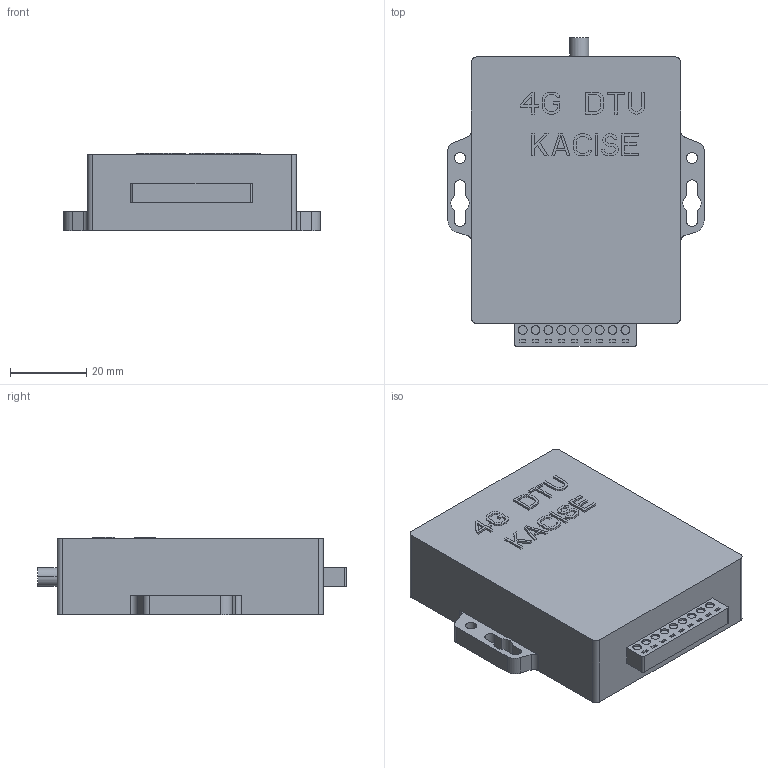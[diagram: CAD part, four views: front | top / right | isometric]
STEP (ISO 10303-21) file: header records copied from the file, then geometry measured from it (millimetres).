
FILE_DESCRIPTION((''),'2;1');
FILE_NAME('PRT0085','2025-12-31T10:33:38',('28740194'),(''),'CREO PARAMETRIC BY PTC INC, 2024063','CREO PARAMETRIC BY PTC INC, 2024063','');
FILE_SCHEMA(('CONFIG_CONTROL_DESIGN'));
Length unit declared in the file: millimetre
Products named in the file (1): PRT0085
Bounding box: 67.36 x 81.24 x 20.5 mm (x, y, z)
Volume: 79111.1 mm3; surface area: 14547.7 mm2
Topology: 2 solids, 2 shells, 395 faces, 1071 edges, 714 vertices
Faces by surface type: plane 349, cylinder 46
Entity records: 12315 total; most frequent: CARTESIAN_POINT 2192, ORIENTED_EDGE 2142, DIRECTION 1949, EDGE_CURVE 1071, VECTOR 979, LINE 979, VERTEX_POINT 714, AXIS2_PLACEMENT_3D 485
